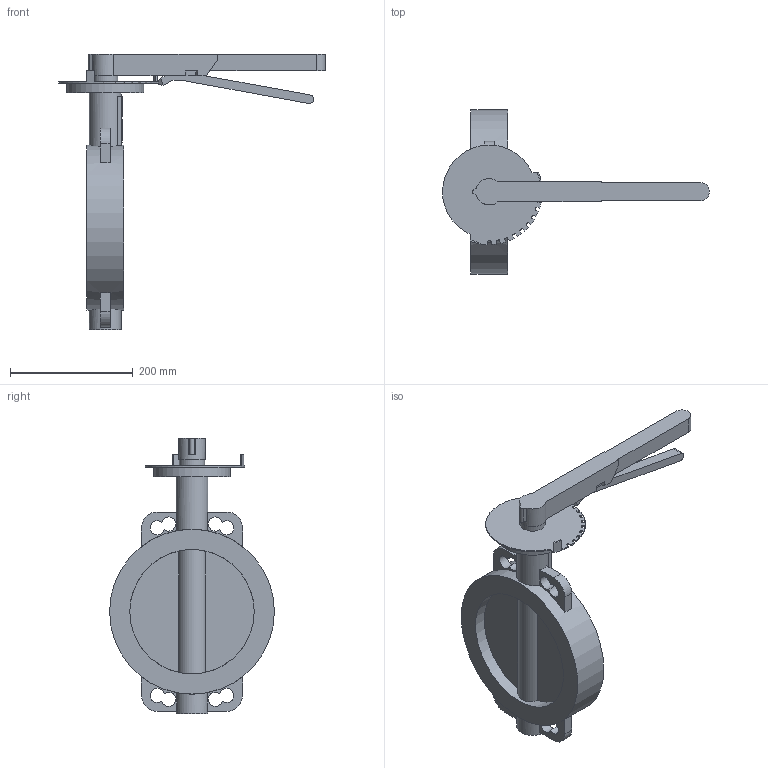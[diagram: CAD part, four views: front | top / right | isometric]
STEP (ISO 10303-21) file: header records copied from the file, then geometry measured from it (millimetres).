
FILE_DESCRIPTION(('STEP AP203'), '1');
FILE_NAME('Çàòâîð 017W.ZS DN200 PN10_16 ðóêîÿòêà', '', ('UNSPECIFIED'), ('UNSPECIFIED'), 'ASCON STEP Converter 1.6', 'ASCON Math Kernel', '');
FILE_SCHEMA(('CONFIG_CONTROL_DESIGN'));
Length unit declared in the file: millimetre
Bounding box: 433.97 x 268 x 448 mm (x, y, z)
Volume: 482185.4 mm3; surface area: 367294.2 mm2
Topology: 1 solids, 4 shells, 885 faces, 2631 edges, 1697 vertices
Faces by surface type: cylinder 655, plane 230
Full cylindrical faces by diameter (mm): 12 x4, 22.1 x1, 41 x1, 52 x2, 70 x1, 125 x1, 202.4 x2, 268 x1
Entity records: 37812 total; most frequent: DIRECTION 5762, CARTESIAN_POINT 5697, ORIENTED_EDGE 5160, EDGE_CURVE 2619, AXIS2_PLACEMENT_3D 2273, VERTEX_POINT 1697, CIRCLE 1388, LINE 1216
